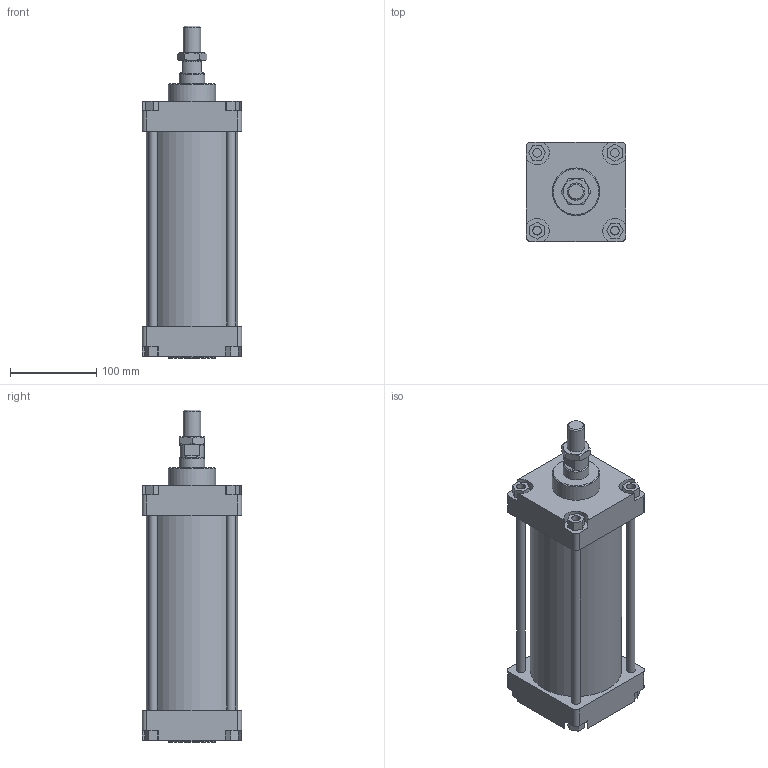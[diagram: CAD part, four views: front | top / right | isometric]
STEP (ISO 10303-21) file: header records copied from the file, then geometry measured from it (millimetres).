
FILE_DESCRIPTION(/* description */ (''),/* implementation_level */ '2;1');
FILE_NAME(/* name */ 'I:\Area Tecnica\Disegni\VARIE-3D\Componenti\CSP\Ø100\130#_100_####_###\130#_100_0150_01A.stp',/* time_stamp */ '2016-11-24T13:51:16+01:00',/* author */ ('Maniean1'),/* organization */ ('Pneumax S.p.A.'),/* preprocessor_version */ 'ST-DEVELOPER v15.2',/* originating_system */ 'Autodesk Inventor 2014',/* authorisation */ '');
FILE_SCHEMA (('AUTOMOTIVE_DESIGN { 1 0 10303 214 3 1 1 }'));
Length unit declared in the file: millimetre
Products named in the file (6): C_130#_100_0150; Testata anteriore_100; Testata posteriore_100; S_130#_100_0150_01A; 130#_100_18F; 130#_100_0150_01A
Bounding box: 115 x 115 x 384 mm (x, y, z)
Volume: 1904149.2 mm3; surface area: 353999 mm2
Topology: 9 solids, 9 shells, 162 faces, 380 edges, 249 vertices
Faces by surface type: plane 105, cylinder 42, cone 15
Full cylindrical faces by diameter (mm): 10 x12, 18.376 x1, 18.5 x1, 19 x2, 20 x1, 28 x1, 30 x3, 55 x2, 100 x2, 106 x1
Entity records: 4530 total; most frequent: CARTESIAN_POINT 785, DIRECTION 764, ORIENTED_EDGE 672, EDGE_CURVE 336, AXIS2_PLACEMENT_3D 271, VERTEX_POINT 244, EDGE_LOOP 236, LINE 222
